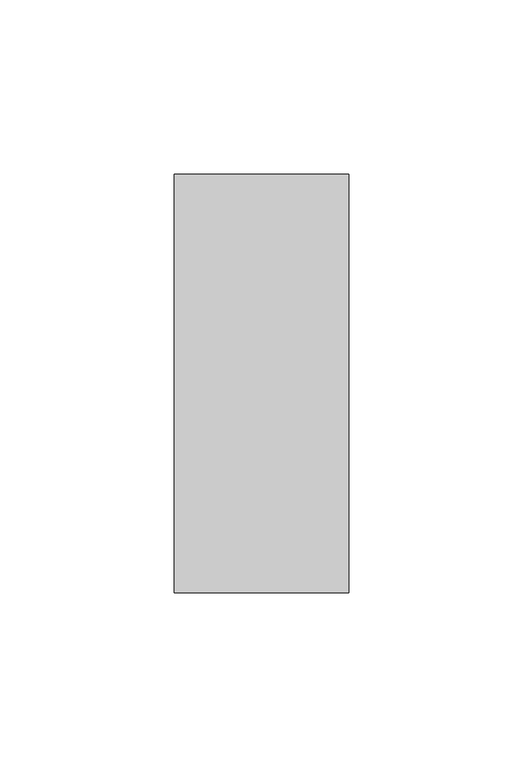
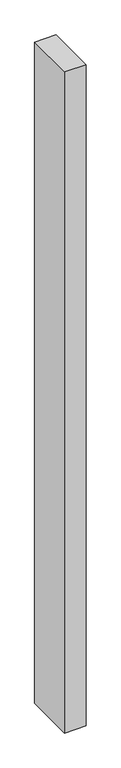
"""IFC4 building model written with IfcOpenShell, lengths in millimetres: member geometry, Прямоугольный импост : 50х120 мм."""

from ifc_helpers import new_model, si_unit, frame, origin, place, context, project, spatial, polyline, outline, extrude, source, transform, mapped, element, save


def member_29d476af(model_context):
    return source(origin(), model_context, "Body", "SweptSolid", [
        extrude(outline(polyline([(25.0, 60.0), (25.0, -60.0), (-25.0, -60.0), (-25.0, 60.0), (25.0, 60.0)])), frame((0.0, 0.0, -1624.9369238), z_axis=(0.0, 0.0, 1.0), x_axis=(1.0, 0.0, 0.0)), (0.0, 0.0, 1.0), 1624.9369238),
    ])


if __name__ == "__main__":
    model = new_model("IFC4")
    model_context = context("Model", 3, world=origin())
    ifc_project = project(units=[si_unit("LENGTHUNIT", "METRE", prefix="MILLI")], contexts=[model_context])
    site = spatial("IfcSite", under=ifc_project)
    building = spatial("IfcBuilding", under=site)
    placement = place(None, origin())
    member_shape = member_29d476af(model_context)
    element("IfcMember", 1, ObjectType="Прямоугольный импост : 50х120 мм", at=placement, inside=building, context=model_context, shape_type="MappedRepresentation", body=[
        mapped(member_shape, transform((0.0, 0.0, 0.0), x_axis=(1.0, 0.0, 0.0), y_axis=(0.0, 1.0, 0.0), z_axis=(0.0, 0.0, 1.0))),
    ])
    save(model, "model.ifc")
